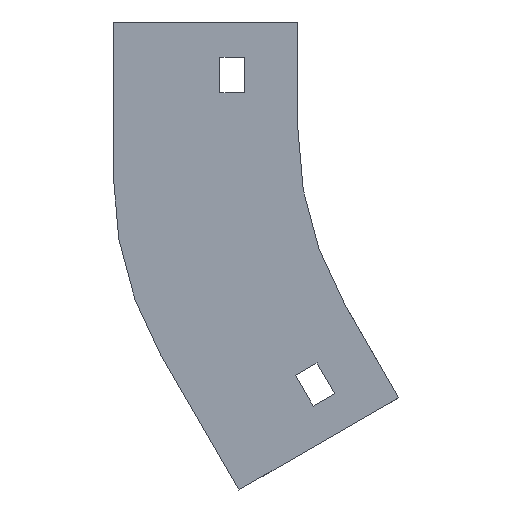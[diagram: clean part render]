
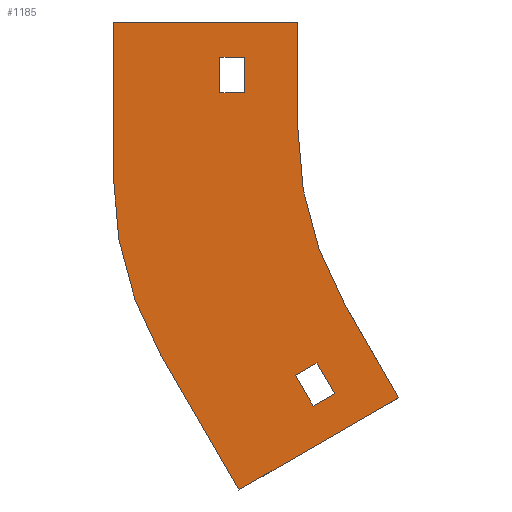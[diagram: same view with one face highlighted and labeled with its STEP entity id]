
A CAD part, left-side view. The second image highlights one B-rep face of the part: STEP entity #1185.
In plain terms, the highlighted planar face has unit normal (-1, 0, 0).
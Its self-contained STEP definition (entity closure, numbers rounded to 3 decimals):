
#3 = CARTESIAN_POINT ( 'NONE',  ( -77., -5.407, -96.16 ) ) ;
#7 = CIRCLE ( 'NONE', #1129, 100. ) ;
#32 = EDGE_CURVE ( 'NONE', #1195, #216, #7, .T. ) ;
#37 = LINE ( 'NONE', #715, #280 ) ;
#65 = VECTOR ( 'NONE', #1020, 1000. ) ;
#94 = CARTESIAN_POINT ( 'NONE',  ( -77., -4.345, -108.321 ) ) ;
#95 = VERTEX_POINT ( 'NONE', #820 ) ;
#111 = DIRECTION ( 'NONE',  ( -1., 0., 0. ) ) ;
#140 = LINE ( 'NONE', #1202, #884 ) ;
#142 = EDGE_CURVE ( 'NONE', #216, #1273, #1019, .T. ) ;
#148 = CARTESIAN_POINT ( 'NONE',  ( -77., 0., 0. ) ) ;
#171 = DIRECTION ( 'NONE',  ( 0., -0.5, -0.866 ) ) ;
#179 = CARTESIAN_POINT ( 'NONE',  ( -77., 22., -20. ) ) ;
#188 = DIRECTION ( 'NONE',  ( 0., 0.5, 0.866 ) ) ;
#191 = DIRECTION ( 'NONE',  ( 0., 0.866, -0.5 ) ) ;
#198 = DIRECTION ( 'NONE',  ( 0., 0., 1. ) ) ;
#211 = EDGE_CURVE ( 'NONE', #933, #648, #398, .T. ) ;
#213 = VECTOR ( 'NONE', #198, 1000. ) ;
#216 = VERTEX_POINT ( 'NONE', #946 ) ;
#221 = CARTESIAN_POINT ( 'NONE',  ( -77., 16.636, -131.981 ) ) ;
#223 = EDGE_LOOP ( 'NONE', ( #588, #1385, #868, #959, #359, #269, #1030, #999 ) ) ;
#232 = EDGE_CURVE ( 'NONE', #541, #587, #1247, .T. ) ;
#245 = ORIENTED_EDGE ( 'NONE', *, *, #1364, .F. ) ;
#253 = DIRECTION ( 'NONE',  ( 0., -1., 0. ) ) ;
#256 = EDGE_CURVE ( 'NONE', #877, #95, #277, .T. ) ;
#269 = ORIENTED_EDGE ( 'NONE', *, *, #473, .F. ) ;
#273 = CARTESIAN_POINT ( 'NONE',  ( -77., 0.655, -99.66 ) ) ;
#277 = LINE ( 'NONE', #1357, #466 ) ;
#280 = VECTOR ( 'NONE', #611, 1000. ) ;
#286 = LINE ( 'NONE', #1135, #704 ) ;
#305 = VECTOR ( 'NONE', #407, 1000. ) ;
#317 = EDGE_CURVE ( 'NONE', #587, #933, #286, .T. ) ;
#322 = VECTOR ( 'NONE', #171, 1000. ) ;
#324 = DIRECTION ( 'NONE',  ( 0., 0.5, 0.866 ) ) ;
#326 = ORIENTED_EDGE ( 'NONE', *, *, #1310, .T. ) ;
#344 = CARTESIAN_POINT ( 'NONE',  ( -77., 16.636, -131.981 ) ) ;
#346 = ORIENTED_EDGE ( 'NONE', *, *, #887, .T. ) ;
#359 = ORIENTED_EDGE ( 'NONE', *, *, #1144, .F. ) ;
#368 = EDGE_CURVE ( 'NONE', #1273, #877, #740, .T. ) ;
#374 = CARTESIAN_POINT ( 'NONE',  ( -77., -100., -30. ) ) ;
#378 = DIRECTION ( 'NONE',  ( 0., -0.866, 0.5 ) ) ;
#398 = LINE ( 'NONE', #94, #322 ) ;
#407 = DIRECTION ( 'NONE',  ( 0., -1., 0. ) ) ;
#410 = CARTESIAN_POINT ( 'NONE',  ( -77., 22., -20. ) ) ;
#418 = EDGE_LOOP ( 'NONE', ( #784, #245, #1225, #664 ) ) ;
#442 = VERTEX_POINT ( 'NONE', #179 ) ;
#454 = CARTESIAN_POINT ( 'NONE',  ( -77., -13.397, -80. ) ) ;
#465 = FACE_BOUND ( 'NONE', #418, .T. ) ;
#466 = VECTOR ( 'NONE', #598, 1000. ) ;
#473 = EDGE_CURVE ( 'NONE', #1269, #926, #711, .T. ) ;
#492 = DIRECTION ( 'NONE',  ( 0., 0., 1. ) ) ;
#494 = EDGE_CURVE ( 'NONE', #693, #442, #1210, .T. ) ;
#496 = CARTESIAN_POINT ( 'NONE',  ( -77., -4.345, -108.321 ) ) ;
#531 = CARTESIAN_POINT ( 'NONE',  ( -77., -4.345, -108.321 ) ) ;
#539 = CARTESIAN_POINT ( 'NONE',  ( -77., -10.407, -104.821 ) ) ;
#541 = VERTEX_POINT ( 'NONE', #539 ) ;
#554 = VERTEX_POINT ( 'NONE', #843 ) ;
#568 = CARTESIAN_POINT ( 'NONE',  ( -77., 22., -10. ) ) ;
#587 = VERTEX_POINT ( 'NONE', #3 ) ;
#588 = ORIENTED_EDGE ( 'NONE', *, *, #368, .F. ) ;
#598 = DIRECTION ( 'NONE',  ( 0., 0., -1. ) ) ;
#599 = VECTOR ( 'NONE', #324, 1000. ) ;
#602 = DIRECTION ( 'NONE',  ( 0., 1., 0. ) ) ;
#611 = DIRECTION ( 'NONE',  ( 0., 0., -1. ) ) ;
#612 = VECTOR ( 'NONE', #188, 1000. ) ;
#613 = CARTESIAN_POINT ( 'NONE',  ( -77., 52., -43.933 ) ) ;
#614 = CARTESIAN_POINT ( 'NONE',  ( -77., -13.397, -80. ) ) ;
#624 = CARTESIAN_POINT ( 'NONE',  ( -77., -48., -43.933 ) ) ;
#648 = VERTEX_POINT ( 'NONE', #531 ) ;
#664 = ORIENTED_EDGE ( 'NONE', *, *, #317, .F. ) ;
#678 = DIRECTION ( 'NONE',  ( 0., 0., 1. ) ) ;
#691 = VECTOR ( 'NONE', #378, 1000. ) ;
#693 = VERTEX_POINT ( 'NONE', #1165 ) ;
#704 = VECTOR ( 'NONE', #191, 1000. ) ;
#711 = LINE ( 'NONE', #614, #65 ) ;
#715 = CARTESIAN_POINT ( 'NONE',  ( -77., 15., -10. ) ) ;
#740 = LINE ( 'NONE', #828, #305 ) ;
#784 = ORIENTED_EDGE ( 'NONE', *, *, #232, .F. ) ;
#785 = VERTEX_POINT ( 'NONE', #344 ) ;
#792 = LINE ( 'NONE', #1123, #1012 ) ;
#809 = CARTESIAN_POINT ( 'NONE',  ( -77., -28.397, -105.981 ) ) ;
#813 = AXIS2_PLACEMENT_3D ( 'NONE', #374, #927, #492 ) ;
#820 = CARTESIAN_POINT ( 'NONE',  ( -77., 0., -30. ) ) ;
#828 = CARTESIAN_POINT ( 'NONE',  ( -77., 52., 0. ) ) ;
#843 = CARTESIAN_POINT ( 'NONE',  ( -77., 22., -10. ) ) ;
#860 = ORIENTED_EDGE ( 'NONE', *, *, #494, .T. ) ;
#868 = ORIENTED_EDGE ( 'NONE', *, *, #32, .F. ) ;
#877 = VERTEX_POINT ( 'NONE', #148 ) ;
#879 = CARTESIAN_POINT ( 'NONE',  ( -77., 38.603, -93.933 ) ) ;
#884 = VECTOR ( 'NONE', #1197, 1000. ) ;
#886 = FACE_BOUND ( 'NONE', #1035, .T. ) ;
#887 = EDGE_CURVE ( 'NONE', #1081, #693, #37, .T. ) ;
#902 = CIRCLE ( 'NONE', #813, 100. ) ;
#905 = LINE ( 'NONE', #496, #691 ) ;
#907 = VECTOR ( 'NONE', #253, 1000. ) ;
#919 = DIRECTION ( 'NONE',  ( 0., 0., 1. ) ) ;
#926 = VERTEX_POINT ( 'NONE', #809 ) ;
#927 = DIRECTION ( 'NONE',  ( -1., 0., 0. ) ) ;
#933 = VERTEX_POINT ( 'NONE', #273 ) ;
#946 = CARTESIAN_POINT ( 'NONE',  ( -77., 52., -43.933 ) ) ;
#951 = EDGE_CURVE ( 'NONE', #95, #1269, #902, .T. ) ;
#959 = ORIENTED_EDGE ( 'NONE', *, *, #1077, .F. ) ;
#978 = FACE_OUTER_BOUND ( 'NONE', #223, .T. ) ;
#999 = ORIENTED_EDGE ( 'NONE', *, *, #256, .F. ) ;
#1002 = ORIENTED_EDGE ( 'NONE', *, *, #1277, .T. ) ;
#1012 = VECTOR ( 'NONE', #919, 1000. ) ;
#1019 = LINE ( 'NONE', #613, #213 ) ;
#1020 = DIRECTION ( 'NONE',  ( 0., -0.5, -0.866 ) ) ;
#1030 = ORIENTED_EDGE ( 'NONE', *, *, #951, .F. ) ;
#1033 = VECTOR ( 'NONE', #602, 1000. ) ;
#1035 = EDGE_LOOP ( 'NONE', ( #1002, #346, #860, #326 ) ) ;
#1061 = CARTESIAN_POINT ( 'NONE',  ( -77., 15., -10. ) ) ;
#1077 = EDGE_CURVE ( 'NONE', #785, #1195, #1278, .T. ) ;
#1078 = CARTESIAN_POINT ( 'NONE',  ( -77., -100., -30. ) ) ;
#1081 = VERTEX_POINT ( 'NONE', #1061 ) ;
#1090 = LINE ( 'NONE', #568, #907 ) ;
#1106 = AXIS2_PLACEMENT_3D ( 'NONE', #1078, #111, #678 ) ;
#1123 = CARTESIAN_POINT ( 'NONE',  ( -77., 22., -10. ) ) ;
#1129 = AXIS2_PLACEMENT_3D ( 'NONE', #624, #1171, #1400 ) ;
#1135 = CARTESIAN_POINT ( 'NONE',  ( -77., 0.655, -99.66 ) ) ;
#1144 = EDGE_CURVE ( 'NONE', #926, #785, #140, .T. ) ;
#1148 = CARTESIAN_POINT ( 'NONE',  ( -77., -10.407, -104.821 ) ) ;
#1165 = CARTESIAN_POINT ( 'NONE',  ( -77., 15., -20. ) ) ;
#1171 = DIRECTION ( 'NONE',  ( 1., 0., 0. ) ) ;
#1185 = ADVANCED_FACE ( 'NONE', ( #886, #978, #465 ), #1302, .T. ) ;
#1195 = VERTEX_POINT ( 'NONE', #879 ) ;
#1197 = DIRECTION ( 'NONE',  ( 0., 0.866, -0.5 ) ) ;
#1202 = CARTESIAN_POINT ( 'NONE',  ( -77., -28.397, -105.981 ) ) ;
#1206 = CARTESIAN_POINT ( 'NONE',  ( -77., 52., 0. ) ) ;
#1210 = LINE ( 'NONE', #410, #1033 ) ;
#1225 = ORIENTED_EDGE ( 'NONE', *, *, #211, .F. ) ;
#1247 = LINE ( 'NONE', #1148, #612 ) ;
#1269 = VERTEX_POINT ( 'NONE', #454 ) ;
#1273 = VERTEX_POINT ( 'NONE', #1206 ) ;
#1277 = EDGE_CURVE ( 'NONE', #554, #1081, #1090, .T. ) ;
#1278 = LINE ( 'NONE', #221, #599 ) ;
#1302 = PLANE ( 'NONE',  #1106 ) ;
#1310 = EDGE_CURVE ( 'NONE', #442, #554, #792, .T. ) ;
#1357 = CARTESIAN_POINT ( 'NONE',  ( -77., 0., 0. ) ) ;
#1364 = EDGE_CURVE ( 'NONE', #648, #541, #905, .T. ) ;
#1385 = ORIENTED_EDGE ( 'NONE', *, *, #142, .F. ) ;
#1400 = DIRECTION ( 'NONE',  ( 0., 0., -1. ) ) ;
